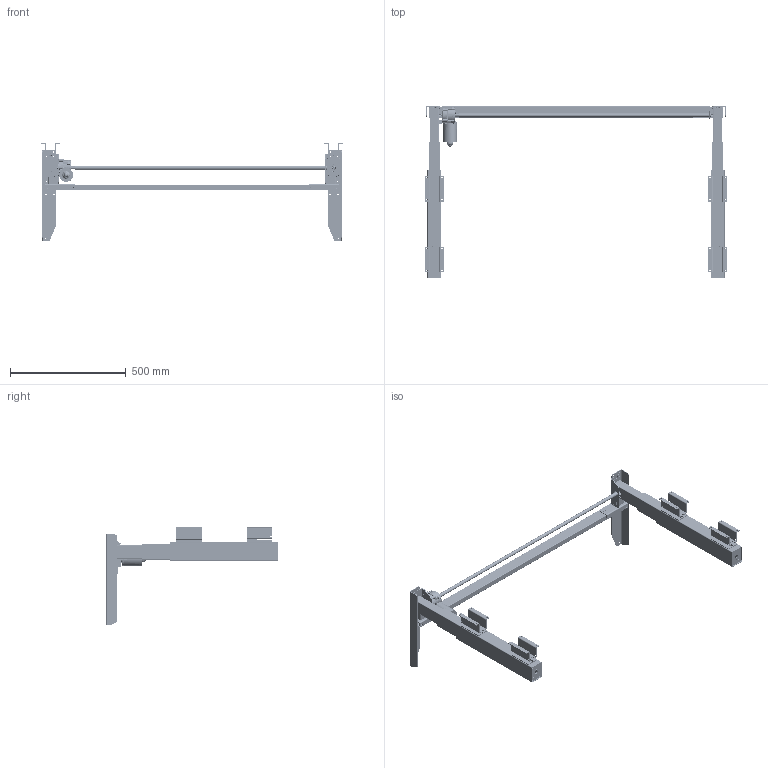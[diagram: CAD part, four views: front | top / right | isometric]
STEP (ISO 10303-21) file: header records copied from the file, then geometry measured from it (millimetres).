
FILE_DESCRIPTION (( 'STEP AP214' ), '1' );
FILE_NAME ('Tech-draw_501-39_XX129.STEP', '2024-09-11T10:50:25', ( '' ), ( '' ), 'SwSTEP 2.0', 'SolidWorks 2023', '' );
FILE_SCHEMA (( 'AUTOMOTIVE_DESIGN' ));
Length unit declared in the file: millimetre
Products named in the file (106): 160580; 343000; 340180; 134810; 135010; 160590_Shell view; 335380; 340560; 333320; 359090; 341800_silver; 333190; 346640; 361540; 321140.; 144260_129; 306980; 600470; 134800; 321840; 333200; 347920_129; 331030; 321150; 361550; 346830; 336230.; 361560; 341060; 160600; 314130; 161150_Shell view; 346330_White; 345000; 346840; 333180; 127360; 332180_rev1; 328870; 315360_Ingen kontaktarm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
Assembly tree (306 placements, depth 7):
  Tech-draw_501-39_XX129
    347910_129
    144260_129
      347920_129
      340560
      341220
    161150_Shell view
      361530
      361570  x2
      160630  x2
        361550
        361560
      160590_Shell view
        342310  x8
        341800  x10
        341800_silver  x6
        346910
        356120
        160560
          361520
          356850
        160580
          356130
          346640
          346330_White
          346200  x2
          346190_White
          345000
        142910_shell view
          346140
          600470
          320130
          142920_Shell view
            142800_rubber direction a
              321180
              321140.
            321190
            321840
            335380
            134750
              336230.
              340430
            321260  x2
            135010
              339870
            346890
            335900_Assembly  x3
            341330
          321150
          301890
          315360_Ingen kontaktarm
          325430
          311580  x3
          333420  x2
          321840
          142850_shell view
            346830
            346840
          346790  x2
          346800
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Bounding box: 1303.9 x 742.65 x 426.4 mm (x, y, z)
Volume: 2625058.8 mm3; surface area: 2724795.7 mm2
Topology: 288 solids, 288 shells, 13237 faces, 34662 edges, 22759 vertices
Faces by surface type: plane 6443, cylinder 4726, bspline 1321, cone 388, torus 316, sphere 43
Full cylindrical faces by diameter (mm): 1.2 x2, 1.5 x1, 1.8 x1, 1.9 x3, 2 x12, 2.2 x1, 2.3 x1, 2.4 x489, 2.5 x4, 2.9 x2, 3 x41, 3.1 x2, 3.2 x2, 3.3 x10, 3.5 x2, 3.6 x1, 4 x28, 4.1 x1, 4.2 x6, 4.3 x1, 4.5 x6, 4.6 x4, 4.95 x122, 4.98 x1, 5 x55, 5.05 x4, 5.2 x1, 5.5 x18, 5.6 x2, 5.7 x1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
Entity records: 316096 total; most frequent: CARTESIAN_POINT 137229, ORIENTED_EDGE 39234, DIRECTION 31821, EDGE_CURVE 19617, VERTEX_POINT 12995, AXIS2_PLACEMENT_3D 11285, LINE 9251, VECTOR 9251
